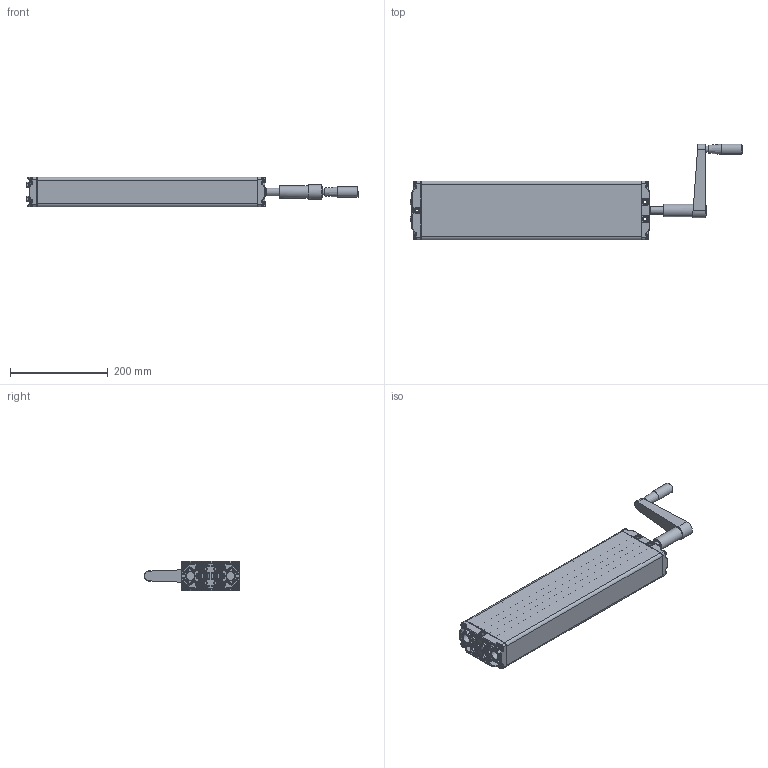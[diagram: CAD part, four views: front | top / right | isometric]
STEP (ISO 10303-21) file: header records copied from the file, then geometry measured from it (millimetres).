
FILE_DESCRIPTION(/* description */ ('Unknown'),/* implementation_level */ '2;1');
FILE_NAME(/* name */ '312.20003 Pumpe PB 4830 W mit Handkurbel',/* time_stamp */ '2016-09-01T15:27:50+02:00',/* author */ ('Unknown'),/* organization */ ('Unknown'),/* preprocessor_version */ 'ST-DEVELOPER v16.7',/* originating_system */ 'DEX',/* authorisation */ $);
FILE_SCHEMA (('AUTOMOTIVE_DESIGN {1 0 10303 214 3 1 1}'));
Products named in the file (21): 102.20003; 115.00033; 125.00045; 115.00008; 142.00021; 125.00021; 113.00005; 128.00001; 125.00052; 126.00013; 125.00053; 127.00014; Handgriff; 142.00013; 125.00143; 115.00140; 126.00006; 122.00040; 119.00043; 126.00005; 142.00057
Assembly tree (30 placements, depth 3):
  102.20003
    115.00033  x4
      125.00045
      115.00008
      142.00021
      125.00021
    113.00005
      128.00001
      125.00052
      126.00013
      125.00053
      127.00014
      Handgriff
    142.00013  x8
    125.00143
    115.00140
      126.00006
      122.00040
    119.00043
    126.00005
    142.00057
Bounding box: 677.72 x 195.5 x 60.3 mm (x, y, z)
Volume: 770027 mm3; surface area: 471856.2 mm2
Topology: 32 solids, 32 shells, 2579 faces, 6103 edges, 3518 vertices
Faces by surface type: plane 711, bspline 707, cylinder 575, cone 356, torus 172, sphere 58
Full cylindrical faces by diameter (mm): 3.5 x4, 4 x2, 4.1 x4, 4.2 x5, 4.917 x2, 5 x8, 6.917 x8, 8 x10, 9.8 x8, 10 x4, 10.4 x1, 12.8 x1, 13 x1, 14 x1, 14.4 x4, 16 x2, 17 x1, 17.3 x4, 17.9 x8, 18 x1, 19 x1, 20.6 x1, 21 x1, 22 x1, 25.5 x1
Entity records: 101204 total; most frequent: CARTESIAN_POINT 55693, ORIENTED_EDGE 8526, DIRECTION 6935, EDGE_CURVE 4263, AXIS2_PLACEMENT_3D 2788, VERTEX_POINT 2625, FACE_BOUND 2108, EDGE_LOOP 2105
